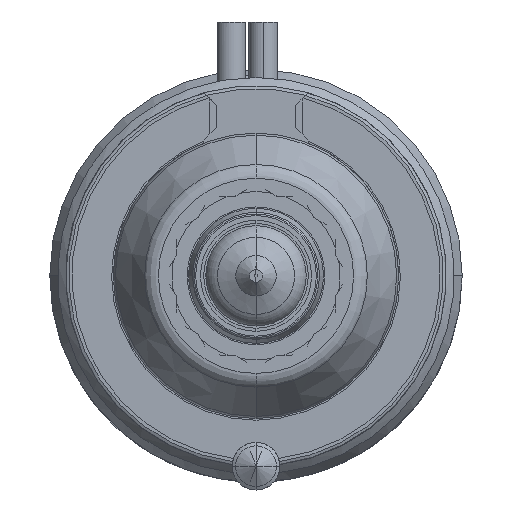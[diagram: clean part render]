
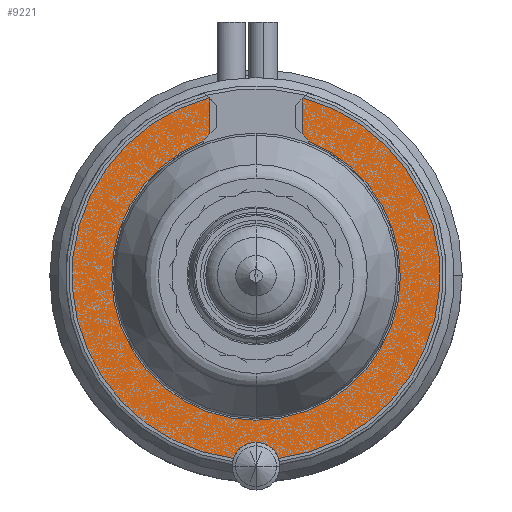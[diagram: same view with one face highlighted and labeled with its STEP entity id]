
A CAD part, front view. The second image highlights one B-rep face of the part: STEP entity #9221.
In plain terms, the highlighted planar face has unit normal (0, -1, 0).
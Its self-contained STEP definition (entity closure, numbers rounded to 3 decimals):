
#594=DIRECTION('',(0.707,0.,-0.707));
#595=VECTOR('',#594,0.092);
#596=CARTESIAN_POINT('',(-2.965,-22.,11.215));
#597=LINE('',#596,#595);
#1553=CARTESIAN_POINT('',(0.,-22.,6.2));
#1554=DIRECTION('',(0.,1.,0.));
#1555=DIRECTION('',(0.725,0.,0.689));
#1556=AXIS2_PLACEMENT_3D('',#1553,#1554,#1555);
#1568=CARTESIAN_POINT('',(0.,-22.,-12.));
#1569=DIRECTION('',(0.,1.,0.));
#1570=DIRECTION('',(-0.946,0.,0.325));
#1571=AXIS2_PLACEMENT_3D('',#1568,#1569,#1570);
#1587=CARTESIAN_POINT('',(0.,-22.,0.));
#1588=DIRECTION('',(0.,1.,0.));
#1589=DIRECTION('',(-0.122,0.,-0.992));
#1590=AXIS2_PLACEMENT_3D('',#1587,#1588,#1589);
#1599=CARTESIAN_POINT('',(0.,-22.,0.));
#1600=DIRECTION('',(0.,1.,0.));
#1601=DIRECTION('',(0.256,0.,0.967));
#1602=AXIS2_PLACEMENT_3D('',#1599,#1600,#1601);
#1615=DIRECTION('',(-0.707,0.,-0.707));
#1616=VECTOR('',#1615,0.092);
#1617=CARTESIAN_POINT('',(2.965,-22.,11.215));
#1618=LINE('',#1617,#1616);
#1623=DIRECTION('',(0.,0.,-1.));
#1624=VECTOR('',#1623,2.195);
#1625=CARTESIAN_POINT('',(2.9,-22.,11.15));
#1626=LINE('',#1625,#1624);
#1654=DIRECTION('',(0.,0.,1.));
#1655=VECTOR('',#1654,2.195);
#1656=CARTESIAN_POINT('',(-2.9,-22.,8.955));
#1657=LINE('',#1656,#1655);
#1689=CARTESIAN_POINT('',(0.,-22.,6.2));
#1690=DIRECTION('',(0.,1.,0.));
#1691=DIRECTION('',(-0.82,0.,0.572));
#1692=AXIS2_PLACEMENT_3D('',#1689,#1690,#1691);
#1704=CARTESIAN_POINT('',(0.,-22.,0.));
#1705=DIRECTION('',(0.,-1.,0.));
#1706=DIRECTION('',(-0.361,0.,0.933));
#1707=AXIS2_PLACEMENT_3D('',#1704,#1705,#1706);
#7410=CARTESIAN_POINT('',(2.965,-22.,11.215));
#7411=CARTESIAN_POINT('',(2.9,-22.,11.15));
#7412=VERTEX_POINT('',#7410);
#7413=VERTEX_POINT('',#7411);
#7418=CARTESIAN_POINT('',(-2.965,-22.,11.215));
#7419=CARTESIAN_POINT('',(-2.9,-22.,11.15));
#7420=VERTEX_POINT('',#7418);
#7421=VERTEX_POINT('',#7419);
#7456=CARTESIAN_POINT('',(2.9,-22.,8.955));
#7457=CARTESIAN_POINT('',(3.281,-22.,8.488));
#7458=VERTEX_POINT('',#7456);
#7459=VERTEX_POINT('',#7457);
#7460=CARTESIAN_POINT('',(-3.281,-22.,8.488));
#7461=CARTESIAN_POINT('',(-2.9,-22.,8.955));
#7462=VERTEX_POINT('',#7460);
#7463=VERTEX_POINT('',#7461);
#7605=CARTESIAN_POINT('',(-1.419,-22.,-11.513));
#7606=CARTESIAN_POINT('',(1.419,-22.,-11.513));
#7607=VERTEX_POINT('',#7605);
#7608=VERTEX_POINT('',#7606);
#9197=CARTESIAN_POINT('',(0.,-22.,0.));
#9198=DIRECTION('',(0.,-1.,0.));
#9199=DIRECTION('',(-1.,0.,0.));
#9200=AXIS2_PLACEMENT_3D('',#9197,#9198,#9199);
#9201=PLANE('',#9200);
#9202=ORIENTED_EDGE('',*,*,#8684,.F.);
#9204=ORIENTED_EDGE('',*,*,#9203,.T.);
#9205=ORIENTED_EDGE('',*,*,#8804,.T.);
#9207=ORIENTED_EDGE('',*,*,#9206,.F.);
#9209=ORIENTED_EDGE('',*,*,#9208,.F.);
#9211=ORIENTED_EDGE('',*,*,#9210,.T.);
#9212=ORIENTED_EDGE('',*,*,#9176,.F.);
#9214=ORIENTED_EDGE('',*,*,#9213,.F.);
#9216=ORIENTED_EDGE('',*,*,#9215,.F.);
#9218=ORIENTED_EDGE('',*,*,#9217,.T.);
#9219=EDGE_LOOP('',(#9202,#9204,#9205,#9207,#9209,#9211,#9212,#9214,#9216,
#9218));
#9220=FACE_OUTER_BOUND('',#9219,.F.);
#9221=ADVANCED_FACE('',(#9220),#9201,.T.);
#1557=CIRCLE('',#1556,4.);
#1572=CIRCLE('',#1571,1.5);
#1591=CIRCLE('',#1590,11.6);
#1603=CIRCLE('',#1602,11.6);
#1693=CIRCLE('',#1692,4.);
#1708=CIRCLE('',#1707,9.1);
#8684=EDGE_CURVE('',#7607,#7608,#1572,.T.);
#8804=EDGE_CURVE('',#7420,#7421,#597,.T.);
#9176=EDGE_CURVE('',#7458,#7459,#1557,.T.);
#9203=EDGE_CURVE('',#7607,#7420,#1591,.T.);
#9206=EDGE_CURVE('',#7463,#7421,#1657,.T.);
#9208=EDGE_CURVE('',#7462,#7463,#1693,.T.);
#9210=EDGE_CURVE('',#7462,#7459,#1708,.T.);
#9213=EDGE_CURVE('',#7413,#7458,#1626,.T.);
#9215=EDGE_CURVE('',#7412,#7413,#1618,.T.);
#9217=EDGE_CURVE('',#7412,#7608,#1603,.T.);
